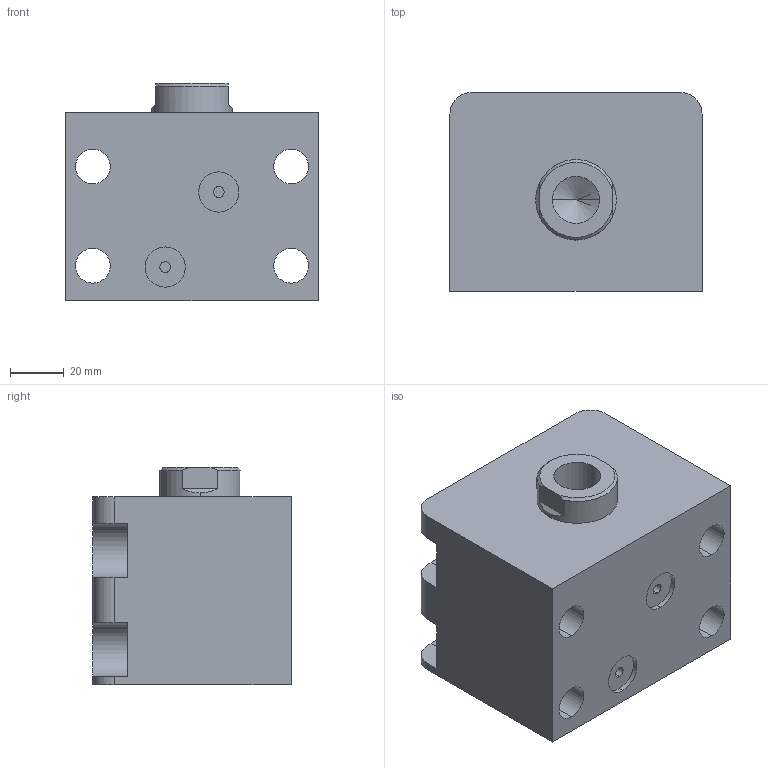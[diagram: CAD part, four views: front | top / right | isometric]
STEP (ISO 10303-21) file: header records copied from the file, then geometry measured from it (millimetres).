
FILE_DESCRIPTION (( 'STEP AP203' ), '1' );
FILE_NAME ('HTB-LAM50-10N.STEP', '2023-03-20T00:41:55', ( '微软用户' ), ( '微软中国' ), 'SwSTEP 2.0', 'SolidWorks 2012', '' );
FILE_SCHEMA (( 'CONFIG_CONTROL_DESIGN' ));
Length unit declared in the file: millimetre
Products named in the file (3): HTB-LAM50-10N; HTB-LAM50-10N活塞杆; HTB-LAM50-10掛极
Assembly tree (2 placements, depth 2):
  HTB-LAM50-10N
    HTB-LAM50-10掛极
    HTB-LAM50-10N活塞杆
Bounding box: 94 x 74 x 81 mm (x, y, z)
Volume: 422563.1 mm3; surface area: 71256.5 mm2
Topology: 2 solids, 2 shells, 75 faces, 186 edges, 121 vertices
Faces by surface type: cylinder 36, plane 31, torus 4, cone 4
Entity records: 2569 total; most frequent: DIRECTION 418, CARTESIAN_POINT 413, ORIENTED_EDGE 368, EDGE_CURVE 184, AXIS2_PLACEMENT_3D 162, VERTEX_POINT 121, VECTOR 94, LINE 94
